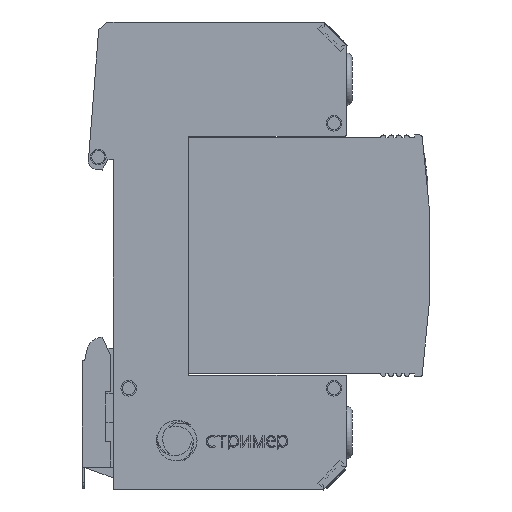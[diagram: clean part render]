
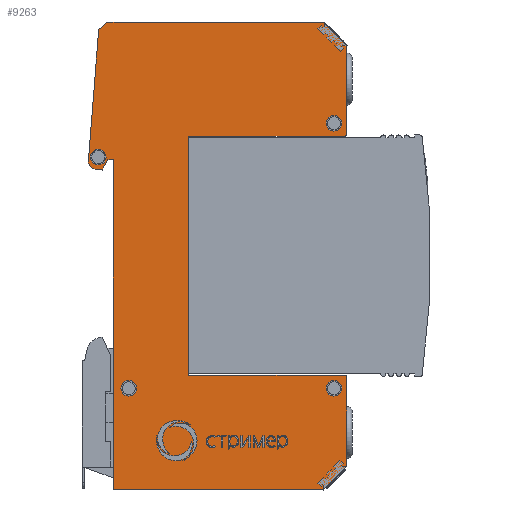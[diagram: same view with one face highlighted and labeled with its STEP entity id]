
A CAD part, front view. The second image highlights one B-rep face of the part: STEP entity #9263.
In plain terms, the highlighted planar face has unit normal (0, -1, 0).
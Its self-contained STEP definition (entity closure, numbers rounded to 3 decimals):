
#7463=CARTESIAN_POINT('',(-14.5,-9.,-45.));
#7464=VERTEX_POINT('',#7463);
#7465=CARTESIAN_POINT('',(26.,-9.,-45.));
#7466=VERTEX_POINT('',#7465);
#7467=CARTESIAN_POINT('',(-14.5,-9.,-45.));
#7468=DIRECTION('',(1.,0.,-0.));
#7469=VECTOR('',#7468,40.5);
#7470=LINE('',#7467,#7469);
#7471=EDGE_CURVE('',#7464,#7466,#7470,.T.);
#8133=CARTESIAN_POINT('',(-14.5,-9.,18.5));
#8134=VERTEX_POINT('',#8133);
#8135=CARTESIAN_POINT('',(-14.5,-9.,18.5));
#8136=DIRECTION('',(0.,0.,-1.));
#8137=VECTOR('',#8136,63.5);
#8138=LINE('',#8135,#8137);
#8139=EDGE_CURVE('',#8134,#7464,#8138,.T.);
#8334=CARTESIAN_POINT('',(-15.5,-9.,45.));
#8335=VERTEX_POINT('',#8334);
#8336=CARTESIAN_POINT('',(-17.29,-9.,43.498));
#8337=VERTEX_POINT('',#8336);
#8338=CARTESIAN_POINT('',(-15.5,-9.,45.));
#8339=DIRECTION('',(-0.766,0.,-0.643));
#8340=VECTOR('',#8339,2.337);
#8341=LINE('',#8338,#8340);
#8342=EDGE_CURVE('',#8335,#8337,#8341,.T.);
#8374=CARTESIAN_POINT('',(-19.273,-9.,18.306));
#8375=VERTEX_POINT('',#8374);
#8376=CARTESIAN_POINT('',(-17.29,-9.,43.498));
#8377=DIRECTION('',(-0.078,0.,-0.997));
#8378=VECTOR('',#8377,25.27);
#8379=LINE('',#8376,#8378);
#8380=EDGE_CURVE('',#8337,#8375,#8379,.T.);
#8405=CARTESIAN_POINT('',(-17.999,-9.,16.704));
#8406=VERTEX_POINT('',#8405);
#8407=CARTESIAN_POINT('',(-17.777,-9.,18.188));
#8408=DIRECTION('',(0.,-1.,0.));
#8409=DIRECTION('',(0.,0.,1.));
#8410=AXIS2_PLACEMENT_3D('',#8407,#8408,#8409);
#8411=CIRCLE('',#8410,1.5);
#8412=EDGE_CURVE('',#8375,#8406,#8411,.T.);
#8438=CARTESIAN_POINT('',(-16.632,-9.,16.5));
#8439=VERTEX_POINT('',#8438);
#8440=CARTESIAN_POINT('',(-17.999,-9.,16.704));
#8441=DIRECTION('',(0.989,0.,-0.148));
#8442=VECTOR('',#8441,1.383);
#8443=LINE('',#8440,#8442);
#8444=EDGE_CURVE('',#8406,#8439,#8443,.T.);
#8469=CARTESIAN_POINT('',(-15.5,-9.,18.5));
#8470=VERTEX_POINT('',#8469);
#8471=CARTESIAN_POINT('',(-16.632,-9.,16.5));
#8472=DIRECTION('',(0.492,0.,0.87));
#8473=VECTOR('',#8472,2.298);
#8474=LINE('',#8471,#8473);
#8475=EDGE_CURVE('',#8439,#8470,#8474,.T.);
#8500=CARTESIAN_POINT('',(-15.5,-9.,18.5));
#8501=DIRECTION('',(1.,0.,0.));
#8502=VECTOR('',#8501,1.);
#8503=LINE('',#8500,#8502);
#8504=EDGE_CURVE('',#8470,#8134,#8503,.T.);
#8522=CARTESIAN_POINT('',(30.5,-9.,-40.5));
#8523=VERTEX_POINT('',#8522);
#8524=CARTESIAN_POINT('',(26.,-9.,-45.));
#8525=DIRECTION('',(0.707,0.,0.707));
#8526=VECTOR('',#8525,6.364);
#8527=LINE('',#8524,#8526);
#8528=EDGE_CURVE('',#7466,#8523,#8527,.T.);
#8573=CARTESIAN_POINT('',(30.5,-9.,-23.5));
#8574=VERTEX_POINT('',#8573);
#8575=CARTESIAN_POINT('',(30.5,-9.,-40.5));
#8576=DIRECTION('',(0.,0.,1.));
#8577=VECTOR('',#8576,17.);
#8578=LINE('',#8575,#8577);
#8579=EDGE_CURVE('',#8523,#8574,#8578,.T.);
#8604=CARTESIAN_POINT('',(30.,-9.,-23.));
#8605=VERTEX_POINT('',#8604);
#8606=CARTESIAN_POINT('',(30.,-9.,-23.5));
#8607=DIRECTION('',(0.,-1.,0.));
#8608=DIRECTION('',(0.,0.,1.));
#8609=AXIS2_PLACEMENT_3D('',#8606,#8607,#8608);
#8610=CIRCLE('',#8609,0.5);
#8611=EDGE_CURVE('',#8574,#8605,#8610,.T.);
#8637=CARTESIAN_POINT('',(0.,-9.,-23.));
#8638=VERTEX_POINT('',#8637);
#8639=CARTESIAN_POINT('',(30.,-9.,-23.));
#8640=DIRECTION('',(-1.,0.,0.));
#8641=VECTOR('',#8640,30.);
#8642=LINE('',#8639,#8641);
#8643=EDGE_CURVE('',#8605,#8638,#8642,.T.);
#8668=CARTESIAN_POINT('',(0.,-9.,23.));
#8669=VERTEX_POINT('',#8668);
#8670=CARTESIAN_POINT('',(0.,-9.,-23.));
#8671=DIRECTION('',(0.,0.,1.));
#8672=VECTOR('',#8671,46.);
#8673=LINE('',#8670,#8672);
#8674=EDGE_CURVE('',#8638,#8669,#8673,.T.);
#8699=CARTESIAN_POINT('',(30.,-9.,23.));
#8700=VERTEX_POINT('',#8699);
#8701=CARTESIAN_POINT('',(0.,-9.,23.));
#8702=DIRECTION('',(1.,0.,0.));
#8703=VECTOR('',#8702,30.);
#8704=LINE('',#8701,#8703);
#8705=EDGE_CURVE('',#8669,#8700,#8704,.T.);
#8730=CARTESIAN_POINT('',(30.5,-9.,23.5));
#8731=VERTEX_POINT('',#8730);
#8732=CARTESIAN_POINT('',(30.,-9.,23.5));
#8733=DIRECTION('',(0.,-1.,0.));
#8734=DIRECTION('',(0.,0.,1.));
#8735=AXIS2_PLACEMENT_3D('',#8732,#8733,#8734);
#8736=CIRCLE('',#8735,0.5);
#8737=EDGE_CURVE('',#8700,#8731,#8736,.T.);
#8783=CARTESIAN_POINT('',(30.5,-9.,40.5));
#8784=VERTEX_POINT('',#8783);
#8785=CARTESIAN_POINT('',(30.5,-9.,23.5));
#8786=DIRECTION('',(0.,0.,1.));
#8787=VECTOR('',#8786,17.);
#8788=LINE('',#8785,#8787);
#8789=EDGE_CURVE('',#8731,#8784,#8788,.T.);
#8814=CARTESIAN_POINT('',(26.,-9.,45.));
#8815=VERTEX_POINT('',#8814);
#8816=CARTESIAN_POINT('',(30.5,-9.,40.5));
#8817=DIRECTION('',(-0.707,0.,0.707));
#8818=VECTOR('',#8817,6.364);
#8819=LINE('',#8816,#8818);
#8820=EDGE_CURVE('',#8784,#8815,#8819,.T.);
#8845=CARTESIAN_POINT('',(-17.38,-9.,17.5));
#8846=VERTEX_POINT('',#8845);
#8855=CARTESIAN_POINT('',(-18.88,-9.,19.));
#8856=VERTEX_POINT('',#8855);
#8857=CARTESIAN_POINT('',(-17.38,-9.,19.));
#8858=DIRECTION('',(0.,-1.,0.));
#8859=DIRECTION('',(-1.,0.,0.));
#8860=AXIS2_PLACEMENT_3D('',#8857,#8858,#8859);
#8861=CIRCLE('',#8860,1.5);
#8862=EDGE_CURVE('',#8846,#8856,#8861,.T.);
#8887=CARTESIAN_POINT('',(28.,-9.,24.));
#8888=VERTEX_POINT('',#8887);
#8897=CARTESIAN_POINT('',(26.5,-9.,25.5));
#8898=VERTEX_POINT('',#8897);
#8899=CARTESIAN_POINT('',(28.,-9.,25.5));
#8900=DIRECTION('',(0.,-1.,0.));
#8901=DIRECTION('',(-1.,0.,0.));
#8902=AXIS2_PLACEMENT_3D('',#8899,#8900,#8901);
#8903=CIRCLE('',#8902,1.5);
#8904=EDGE_CURVE('',#8888,#8898,#8903,.T.);
#8929=CARTESIAN_POINT('',(-11.5,-9.,-27.));
#8930=VERTEX_POINT('',#8929);
#8939=CARTESIAN_POINT('',(-13.,-9.,-25.5));
#8940=VERTEX_POINT('',#8939);
#8941=CARTESIAN_POINT('',(-11.5,-9.,-25.5));
#8942=DIRECTION('',(0.,-1.,0.));
#8943=DIRECTION('',(-1.,0.,0.));
#8944=AXIS2_PLACEMENT_3D('',#8941,#8942,#8943);
#8945=CIRCLE('',#8944,1.5);
#8946=EDGE_CURVE('',#8930,#8940,#8945,.T.);
#8971=CARTESIAN_POINT('',(28.,-9.,-27.));
#8972=VERTEX_POINT('',#8971);
#8981=CARTESIAN_POINT('',(26.5,-9.,-25.5));
#8982=VERTEX_POINT('',#8981);
#8983=CARTESIAN_POINT('',(28.,-9.,-25.5));
#8984=DIRECTION('',(0.,-1.,0.));
#8985=DIRECTION('',(-1.,0.,0.));
#8986=AXIS2_PLACEMENT_3D('',#8983,#8984,#8985);
#8987=CIRCLE('',#8986,1.5);
#8988=EDGE_CURVE('',#8972,#8982,#8987,.T.);
#9115=CARTESIAN_POINT('',(26.,-9.,45.));
#9116=DIRECTION('',(-1.,0.,0.));
#9117=VECTOR('',#9116,41.5);
#9118=LINE('',#9115,#9117);
#9119=EDGE_CURVE('',#8815,#8335,#9118,.T.);
#9198=CARTESIAN_POINT('',(0.,-9.,0.));
#9199=DIRECTION('',(0.,-1.,0.));
#9200=DIRECTION('',(0.,0.,1.));
#9201=AXIS2_PLACEMENT_3D('',#9198,#9199,#9200);
#9202=PLANE('',#9201);
#9203=ORIENTED_EDGE('',*,*,#8988,.F.);
#9204=CARTESIAN_POINT('',(28.,-9.,-25.5));
#9205=DIRECTION('',(0.,-1.,0.));
#9206=DIRECTION('',(-1.,0.,0.));
#9207=AXIS2_PLACEMENT_3D('',#9204,#9205,#9206);
#9208=CIRCLE('',#9207,1.5);
#9209=EDGE_CURVE('',#8982,#8972,#9208,.T.);
#9210=ORIENTED_EDGE('',*,*,#9209,.F.);
#9211=EDGE_LOOP('',(#9203,#9210));
#9212=FACE_BOUND('',#9211,.T.);
#9213=ORIENTED_EDGE('',*,*,#8946,.F.);
#9214=CARTESIAN_POINT('',(-11.5,-9.,-25.5));
#9215=DIRECTION('',(0.,-1.,0.));
#9216=DIRECTION('',(-1.,0.,0.));
#9217=AXIS2_PLACEMENT_3D('',#9214,#9215,#9216);
#9218=CIRCLE('',#9217,1.5);
#9219=EDGE_CURVE('',#8940,#8930,#9218,.T.);
#9220=ORIENTED_EDGE('',*,*,#9219,.F.);
#9221=EDGE_LOOP('',(#9213,#9220));
#9222=FACE_BOUND('',#9221,.T.);
#9223=ORIENTED_EDGE('',*,*,#8904,.F.);
#9224=CARTESIAN_POINT('',(28.,-9.,25.5));
#9225=DIRECTION('',(0.,-1.,0.));
#9226=DIRECTION('',(-1.,0.,0.));
#9227=AXIS2_PLACEMENT_3D('',#9224,#9225,#9226);
#9228=CIRCLE('',#9227,1.5);
#9229=EDGE_CURVE('',#8898,#8888,#9228,.T.);
#9230=ORIENTED_EDGE('',*,*,#9229,.F.);
#9231=EDGE_LOOP('',(#9223,#9230));
#9232=FACE_BOUND('',#9231,.T.);
#9233=ORIENTED_EDGE('',*,*,#8862,.F.);
#9234=CARTESIAN_POINT('',(-17.38,-9.,19.));
#9235=DIRECTION('',(0.,-1.,0.));
#9236=DIRECTION('',(-1.,0.,0.));
#9237=AXIS2_PLACEMENT_3D('',#9234,#9235,#9236);
#9238=CIRCLE('',#9237,1.5);
#9239=EDGE_CURVE('',#8856,#8846,#9238,.T.);
#9240=ORIENTED_EDGE('',*,*,#9239,.F.);
#9241=EDGE_LOOP('',(#9233,#9240));
#9242=FACE_BOUND('',#9241,.T.);
#9243=ORIENTED_EDGE('',*,*,#8342,.T.);
#9244=ORIENTED_EDGE('',*,*,#8380,.T.);
#9245=ORIENTED_EDGE('',*,*,#8412,.T.);
#9246=ORIENTED_EDGE('',*,*,#8444,.T.);
#9247=ORIENTED_EDGE('',*,*,#8475,.T.);
#9248=ORIENTED_EDGE('',*,*,#8504,.T.);
#9249=ORIENTED_EDGE('',*,*,#8139,.T.);
#9250=ORIENTED_EDGE('',*,*,#7471,.T.);
#9251=ORIENTED_EDGE('',*,*,#8528,.T.);
#9252=ORIENTED_EDGE('',*,*,#8579,.T.);
#9253=ORIENTED_EDGE('',*,*,#8611,.T.);
#9254=ORIENTED_EDGE('',*,*,#8643,.T.);
#9255=ORIENTED_EDGE('',*,*,#8674,.T.);
#9256=ORIENTED_EDGE('',*,*,#8705,.T.);
#9257=ORIENTED_EDGE('',*,*,#8737,.T.);
#9258=ORIENTED_EDGE('',*,*,#8789,.T.);
#9259=ORIENTED_EDGE('',*,*,#8820,.T.);
#9260=ORIENTED_EDGE('',*,*,#9119,.T.);
#9261=EDGE_LOOP('',(#9243,#9244,#9245,#9246,#9247,#9248,#9249,#9250,#9251,#9252,#9253,#9254,#9255,#9256,#9257,#9258,#9259,#9260));
#9262=FACE_BOUND('',#9261,.T.);
#9263=ADVANCED_FACE('',(#9212,#9222,#9232,#9242,#9262),#9202,.T.);
